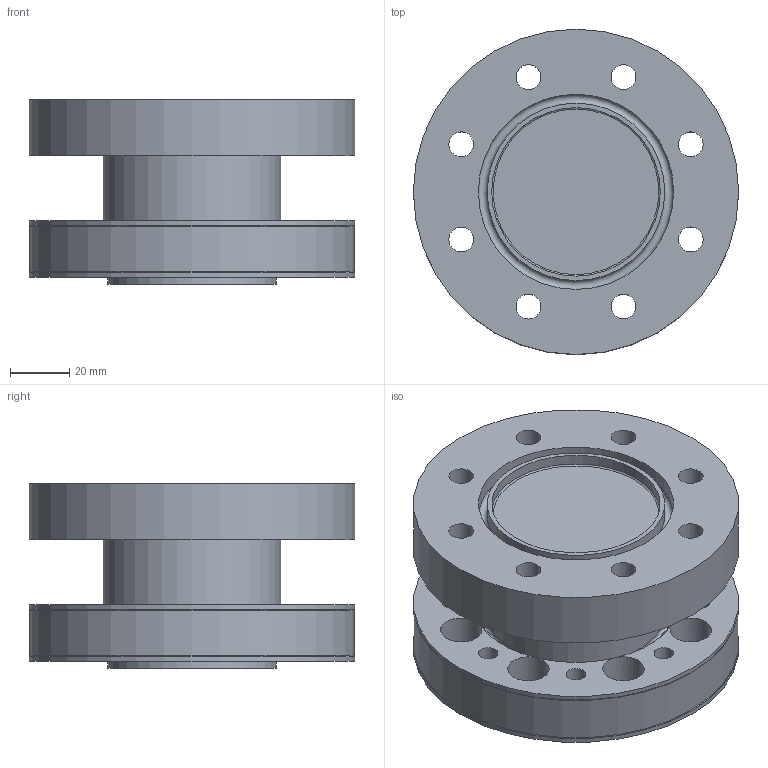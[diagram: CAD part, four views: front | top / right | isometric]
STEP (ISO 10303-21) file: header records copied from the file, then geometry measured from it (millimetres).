
FILE_DESCRIPTION(/* description */ (''),/* implementation_level */ '2;1');
FILE_NAME(/* name */ 'F:\Sensorik\Standard_Messflansche\XtreMA_NEW\Fertigung\BG1\XtreMA_BG1_NEW_V.stp',/* time_stamp */ '2022-07-05T07:29:38+02:00',/* author */ ('Lander'),/* organization */ (''),/* preprocessor_version */ 'ST-DEVELOPER v18.1',/* originating_system */ 'Autodesk Inventor 2021',/* authorisation */ '');
FILE_SCHEMA (('AUTOMOTIVE_DESIGN { 1 0 10303 214 3 1 1 }'));
Length unit declared in the file: millimetre
Products named in the file (1): XtreMA_BG2_500Nm_HBM
Bounding box: 110 x 110 x 62.5 mm (x, y, z)
Volume: 350856.6 mm3; surface area: 70510.4 mm2
Topology: 1 solids, 1 shells, 57 faces, 156 edges, 100 vertices
Faces by surface type: cylinder 38, plane 9, torus 8, cone 2
Full cylindrical faces by diameter (mm): 6.647 x8, 8.4 x8, 14 x8, 53 x1, 57 x2, 58 x1, 60 x2, 64 x1, 66 x1, 68 x2, 109.8 x1, 110 x3
Entity records: 2017 total; most frequent: DIRECTION 388, CARTESIAN_POINT 314, ORIENTED_EDGE 312, AXIS2_PLACEMENT_3D 174, EDGE_CURVE 156, CIRCLE 116, EDGE_LOOP 104, VERTEX_POINT 100
